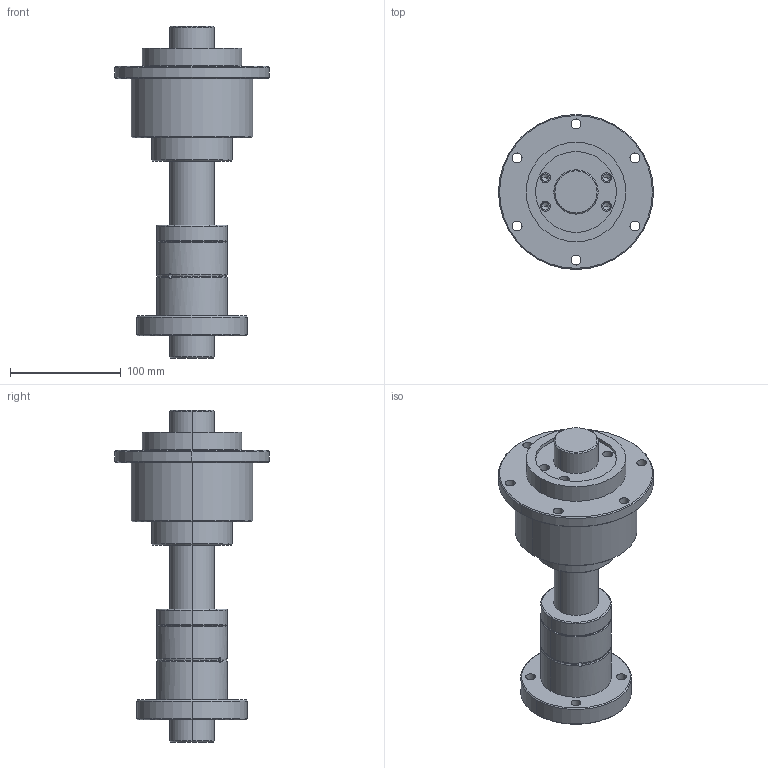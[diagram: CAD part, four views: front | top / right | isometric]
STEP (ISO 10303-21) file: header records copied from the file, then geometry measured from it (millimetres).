
FILE_DESCRIPTION (( 'STEP AP203' ), '1' );
FILE_NAME ('RBLY4040.STEP', '2014-11-13T08:58:03', ( '' ), ( '' ), 'SwSTEP 2.0', 'SolidWorks 2014', '' );
FILE_SCHEMA (( 'CONFIG_CONTROL_DESIGN' ));
Length unit declared in the file: millimetre
Products named in the file (4): SC40; RFBY4040; SLF40; RBLY4040
Assembly tree (3 placements, depth 2):
  RBLY4040
    SC40
    RFBY4040
    SLF40
Bounding box: 140 x 140 x 300 mm (x, y, z)
Volume: 1370895.8 mm3; surface area: 186644.8 mm2
Topology: 5 solids, 5 shells, 147 faces, 331 edges, 203 vertices
Faces by surface type: cylinder 82, plane 25, cone 24, torus 16
Entity records: 4784 total; most frequent: CARTESIAN_POINT 919, DIRECTION 814, ORIENTED_EDGE 646, AXIS2_PLACEMENT_3D 354, EDGE_CURVE 323, VERTEX_POINT 203, CIRCLE 201, EDGE_LOOP 196
